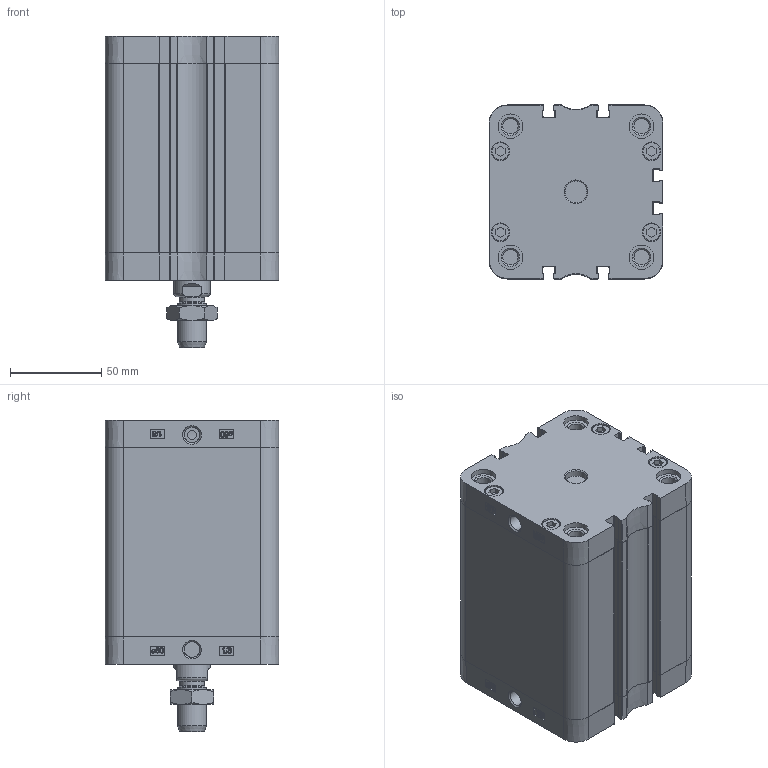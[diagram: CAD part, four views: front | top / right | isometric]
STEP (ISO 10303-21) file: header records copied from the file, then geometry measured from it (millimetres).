
FILE_DESCRIPTION(/* description */ ('Unknown'),/* implementation_level */ '2;1');
FILE_NAME(/* name */ 'ZIF 80_80',/* time_stamp */ '2024-11-12T12:39:55+01:00',/* author */ ('Unknown'),/* organization */ ('HAFNER Pneumatika Kft.'),/* preprocessor_version */ 'ST-DEVELOPER v18.102',/* originating_system */ 'Solid Edge',/* authorisation */ 'Unknown');
FILE_SCHEMA (('AUTOMOTIVE_DESIGN {1 0 10303 214 3 1 1}'));
Length unit declared in the file: millimetre
Products named in the file (6): ZIF 80_80; Kit_1; Kit_2; Profilrohr; Mutter; Kolbenstange
Assembly tree (5 placements, depth 2):
  ZIF 80_80
    Kit_1
    Kit_2
    Profilrohr
    Mutter
    Kolbenstange
Bounding box: 95.5 x 95.5 x 171 mm (x, y, z)
Volume: 790644.6 mm3; surface area: 162247.8 mm2
Topology: 5 solids, 5 shells, 756 faces, 1996 edges, 1320 vertices
Faces by surface type: plane 349, cylinder 209, bspline 122, cone 55, torus 21
Full cylindrical faces by diameter (mm): 5 x1, 8.376 x8, 8.566 x2, 9.8 x8, 10.3 x8, 12 x1, 13.5 x9, 14.376 x1, 16 x1, 20 x1, 20.6 x1, 21.9 x1, 23 x1, 25 x1, 80 x2
Entity records: 28184 total; most frequent: CARTESIAN_POINT 5863, ORIENTED_EDGE 3730, DIRECTION 3358, EDGE_CURVE 1865, VERTEX_POINT 1289, AXIS2_PLACEMENT_3D 1142, LINE 1074, VECTOR 1074
